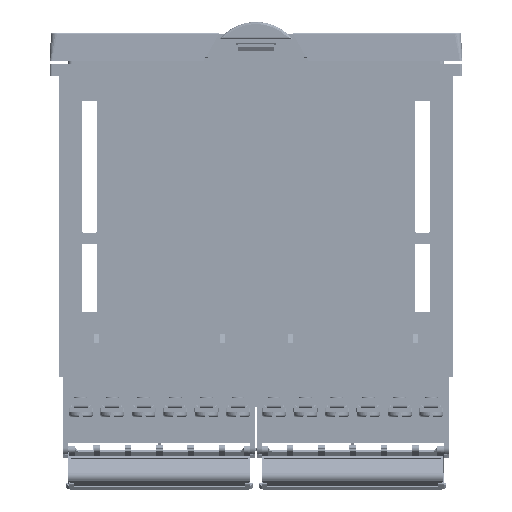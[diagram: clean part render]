
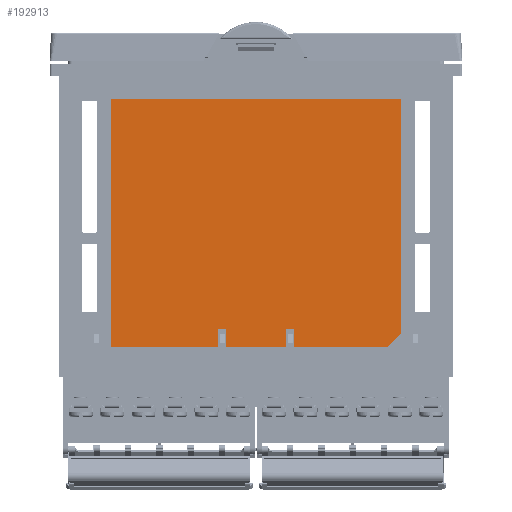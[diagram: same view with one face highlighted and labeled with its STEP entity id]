
A CAD part, left-side view. The second image highlights one B-rep face of the part: STEP entity #192913.
In plain terms, the highlighted planar face has unit normal (-1, 0, 0).
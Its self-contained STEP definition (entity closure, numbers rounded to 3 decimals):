
#46872=DIRECTION('',(0.,0.707,-0.707));
#46873=VECTOR('',#46872,4.243);
#46874=CARTESIAN_POINT('',(-17.5,-33.75,-66.4));
#46875=LINE('',#46874,#46873);
#46876=DIRECTION('',(0.,1.,0.));
#46877=VECTOR('',#46876,22.);
#46878=CARTESIAN_POINT('',(-17.5,-30.75,-69.4));
#46879=LINE('',#46878,#46877);
#46880=DIRECTION('',(0.,0.,1.));
#46881=VECTOR('',#46880,4.);
#46882=CARTESIAN_POINT('',(-17.5,-8.75,-69.4));
#46883=LINE('',#46882,#46881);
#46884=DIRECTION('',(0.,1.,0.));
#46885=VECTOR('',#46884,1.8);
#46886=CARTESIAN_POINT('',(-17.5,-8.75,-65.4));
#46887=LINE('',#46886,#46885);
#46888=DIRECTION('',(0.,0.,-1.));
#46889=VECTOR('',#46888,4.);
#46890=CARTESIAN_POINT('',(-17.5,-6.95,-65.4));
#46891=LINE('',#46890,#46889);
#46892=DIRECTION('',(0.,1.,0.));
#46893=VECTOR('',#46892,13.9);
#46894=CARTESIAN_POINT('',(-17.5,-6.95,-69.4));
#46895=LINE('',#46894,#46893);
#46896=DIRECTION('',(0.,0.,-1.));
#46897=VECTOR('',#46896,4.);
#46898=CARTESIAN_POINT('',(-17.5,8.75,-65.4));
#46899=LINE('',#46898,#46897);
#46900=DIRECTION('',(0.,1.,0.));
#46901=VECTOR('',#46900,25.);
#46902=CARTESIAN_POINT('',(-17.5,8.75,-69.4));
#46903=LINE('',#46902,#46901);
#46904=DIRECTION('',(0.,0.,1.));
#46905=VECTOR('',#46904,54.6);
#46906=CARTESIAN_POINT('',(-17.5,-33.75,-66.4));
#46907=LINE('',#46906,#46905);
#46920=DIRECTION('',(0.,1.,0.));
#46921=VECTOR('',#46920,67.5);
#46922=CARTESIAN_POINT('',(-17.5,-33.75,-11.8));
#46923=LINE('',#46922,#46921);
#65701=DIRECTION('',(0.,-1.,0.));
#65702=VECTOR('',#65701,1.8);
#65703=CARTESIAN_POINT('',(-17.5,8.75,-65.4));
#65704=LINE('',#65703,#65702);
#65713=DIRECTION('',(0.,0.,-1.));
#65714=VECTOR('',#65713,4.);
#65715=CARTESIAN_POINT('',(-17.5,6.95,-65.4));
#65716=LINE('',#65715,#65714);
#82209=DIRECTION('',(0.,0.,-1.));
#82210=VECTOR('',#82209,57.6);
#82211=CARTESIAN_POINT('',(-17.5,33.75,-11.8));
#82212=LINE('',#82211,#82210);
#104162=CARTESIAN_POINT('',(-17.5,8.75,-65.4));
#104163=CARTESIAN_POINT('',(-17.5,8.75,-69.4));
#104164=VERTEX_POINT('',#104162);
#104165=VERTEX_POINT('',#104163);
#104206=CARTESIAN_POINT('',(-17.5,-30.75,-69.4));
#104207=VERTEX_POINT('',#104206);
#104208=CARTESIAN_POINT('',(-17.5,33.75,-69.4));
#104209=VERTEX_POINT('',#104208);
#104212=CARTESIAN_POINT('',(-17.5,-8.75,-69.4));
#104213=CARTESIAN_POINT('',(-17.5,-8.75,-65.4));
#104214=VERTEX_POINT('',#104212);
#104215=VERTEX_POINT('',#104213);
#104218=CARTESIAN_POINT('',(-17.5,-6.95,-65.4));
#104219=VERTEX_POINT('',#104218);
#104220=CARTESIAN_POINT('',(-17.5,-6.95,-69.4));
#104221=VERTEX_POINT('',#104220);
#104222=CARTESIAN_POINT('',(-17.5,-33.75,-66.4));
#104223=CARTESIAN_POINT('',(-17.5,-33.75,-11.8));
#104224=VERTEX_POINT('',#104222);
#104225=VERTEX_POINT('',#104223);
#104226=CARTESIAN_POINT('',(-17.5,6.95,-69.4));
#104227=VERTEX_POINT('',#104226);
#104228=CARTESIAN_POINT('',(-17.5,33.75,-11.8));
#104229=VERTEX_POINT('',#104228);
#104232=CARTESIAN_POINT('',(-17.5,6.95,-65.4));
#104233=VERTEX_POINT('',#104232);
#192886=CARTESIAN_POINT('',(-17.5,0.,-40.6));
#192887=DIRECTION('',(1.,0.,0.));
#192888=DIRECTION('',(0.,0.,-1.));
#192889=AXIS2_PLACEMENT_3D('',#192886,#192887,#192888);
#192890=PLANE('',#192889);
#192892=ORIENTED_EDGE('',*,*,#192891,.F.);
#192894=ORIENTED_EDGE('',*,*,#192893,.T.);
#192895=ORIENTED_EDGE('',*,*,#192822,.T.);
#192896=ORIENTED_EDGE('',*,*,#192853,.T.);
#192897=ORIENTED_EDGE('',*,*,#192867,.T.);
#192898=ORIENTED_EDGE('',*,*,#192880,.T.);
#192899=ORIENTED_EDGE('',*,*,#192838,.T.);
#192901=ORIENTED_EDGE('',*,*,#192900,.F.);
#192903=ORIENTED_EDGE('',*,*,#192902,.F.);
#192905=ORIENTED_EDGE('',*,*,#192904,.T.);
#192906=ORIENTED_EDGE('',*,*,#192830,.T.);
#192908=ORIENTED_EDGE('',*,*,#192907,.F.);
#192910=ORIENTED_EDGE('',*,*,#192909,.F.);
#192911=EDGE_LOOP('',(#192892,#192894,#192895,#192896,#192897,#192898,#192899,
#192901,#192903,#192905,#192906,#192908,#192910));
#192912=FACE_OUTER_BOUND('',#192911,.F.);
#192822=EDGE_CURVE('',#104207,#104214,#46879,.T.);
#192830=EDGE_CURVE('',#104165,#104209,#46903,.T.);
#192838=EDGE_CURVE('',#104221,#104227,#46895,.T.);
#192853=EDGE_CURVE('',#104214,#104215,#46883,.T.);
#192867=EDGE_CURVE('',#104215,#104219,#46887,.T.);
#192880=EDGE_CURVE('',#104219,#104221,#46891,.T.);
#192891=EDGE_CURVE('',#104224,#104225,#46907,.T.);
#192893=EDGE_CURVE('',#104224,#104207,#46875,.T.);
#192900=EDGE_CURVE('',#104233,#104227,#65716,.T.);
#192902=EDGE_CURVE('',#104164,#104233,#65704,.T.);
#192904=EDGE_CURVE('',#104164,#104165,#46899,.T.);
#192907=EDGE_CURVE('',#104229,#104209,#82212,.T.);
#192909=EDGE_CURVE('',#104225,#104229,#46923,.T.);
#192913=ADVANCED_FACE('',(#192912),#192890,.F.);
